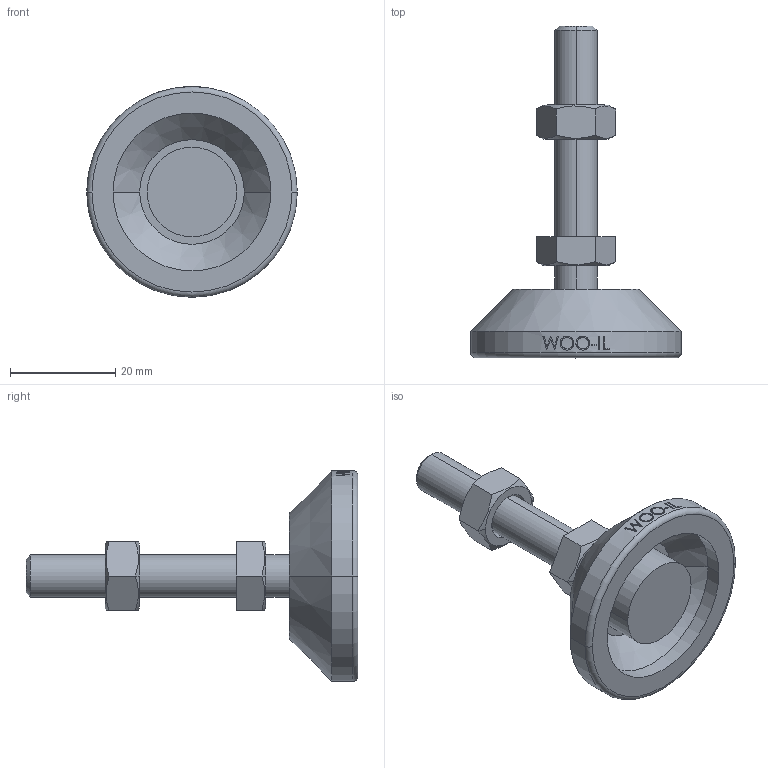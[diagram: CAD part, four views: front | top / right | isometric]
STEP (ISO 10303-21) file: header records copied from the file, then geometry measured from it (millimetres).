
FILE_DESCRIPTION (( 'STEP AP214' ), '1' );
FILE_NAME ('PL40-M8-40.step', '2021-03-05T05:04:33', ( '' ), ( '' ), 'SwSTEP 2.0', 'SolidWorks 2019', '' );
FILE_SCHEMA (( 'AUTOMOTIVE_DESIGN' ));
Length unit declared in the file: millimetre
Products named in the file (2): PL40-M8-40
Bounding box: 40 x 63 x 40 mm (x, y, z)
Volume: 14332.1 mm3; surface area: 6834.1 mm2
Topology: 3 solids, 3 shells, 104 faces, 246 edges, 158 vertices
Faces by surface type: plane 48, cylinder 20, cone 16, bspline 16, sphere 2, torus 2
Entity records: 4220 total; most frequent: CARTESIAN_POINT 1906, ORIENTED_EDGE 482, DIRECTION 427, EDGE_CURVE 241, AXIS2_PLACEMENT_3D 162, VERTEX_POINT 155, EDGE_LOOP 118, FACE_OUTER_BOUND 104
